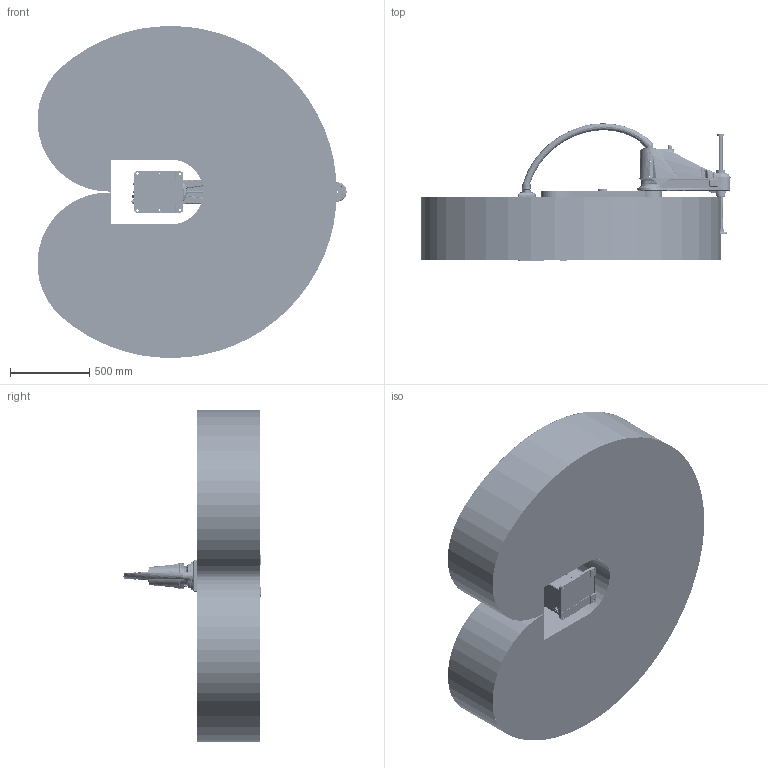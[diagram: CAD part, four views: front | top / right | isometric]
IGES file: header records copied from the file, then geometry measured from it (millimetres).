
Start section: SolidWorks IGES file using analytic representation for surfaces
Global section: file name: X:\03研发部\50-Robot\030AH20\01-Design\_Mechanical\07-AH20对外发布模型\AH20-1050-0204-4000\IGS\AH20-1050-0204-4000-V1.0.0.IGS; native system: SolidWorks 2017; preprocessor: SolidWorks 2017; author: 0741; date: 220602.154249; units: millimetre
Bounding box: 1955.79 x 868.8 x 2100 mm (x, y, z)
Surface area: 11648642.4 mm2 (no closed solid volume)
Topology: 0 solids, 0 shells, 6685 faces, 82418 edges, 82258 vertices
Faces by surface type: bspline 4137, revolution 2548
